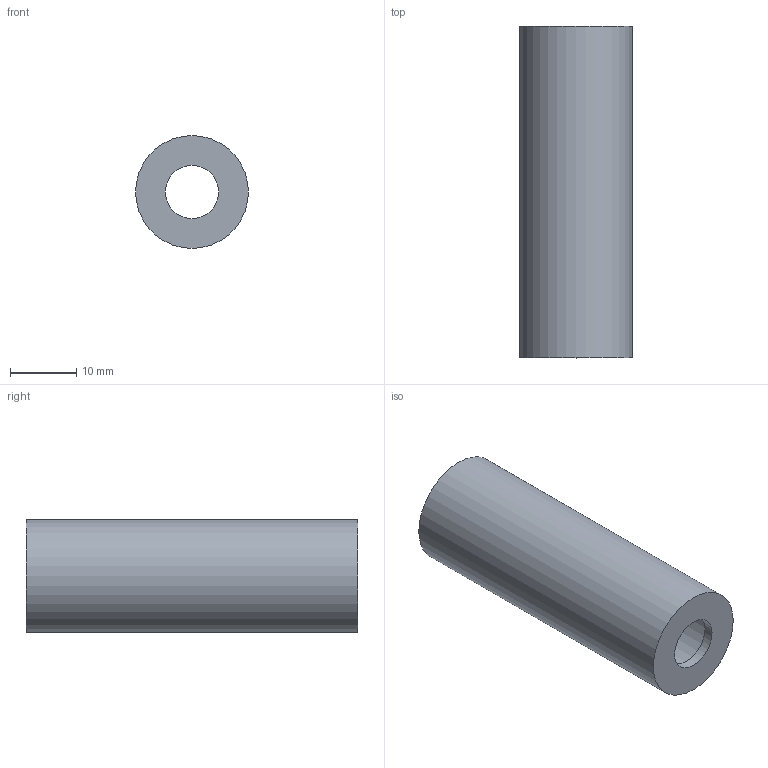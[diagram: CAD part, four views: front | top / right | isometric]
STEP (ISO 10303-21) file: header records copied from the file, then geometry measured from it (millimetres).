
FILE_DESCRIPTION(/* description */ (''),/* implementation_level */ '2;1');
FILE_NAME(/* name */ 'C:\Users\user\Documents\Inventor\Home Ventilator CPAP\Syringe.stp',/* time_stamp */ '2020-04-03T13:38:25+02:00',/* author */ ('user'),/* organization */ (''),/* preprocessor_version */ 'ST-DEVELOPER v16.5',/* originating_system */ 'Autodesk Inventor 2017',/* authorisation */ '');
FILE_SCHEMA (('AUTOMOTIVE_DESIGN { 1 0 10303 214 3 1 1 }'));
Length unit declared in the file: millimetre
Products named in the file (1): Syringe
Bounding box: 17 x 50 x 17 mm (x, y, z)
Volume: 3807.6 mm3; surface area: 5194.6 mm2
Topology: 1 solids, 1 shells, 6 faces, 9 edges, 6 vertices
Faces by surface type: cylinder 3, plane 3
Full cylindrical faces by diameter (mm): 8 x1, 14 x1, 17 x1
Entity records: 158 total; most frequent: DIRECTION 26, CARTESIAN_POINT 19, AXIS2_PLACEMENT_3D 13, EDGE_LOOP 12, ORIENTED_EDGE 12, FACE_BOUND 6, FACE_OUTER_BOUND 6, CIRCLE 6
